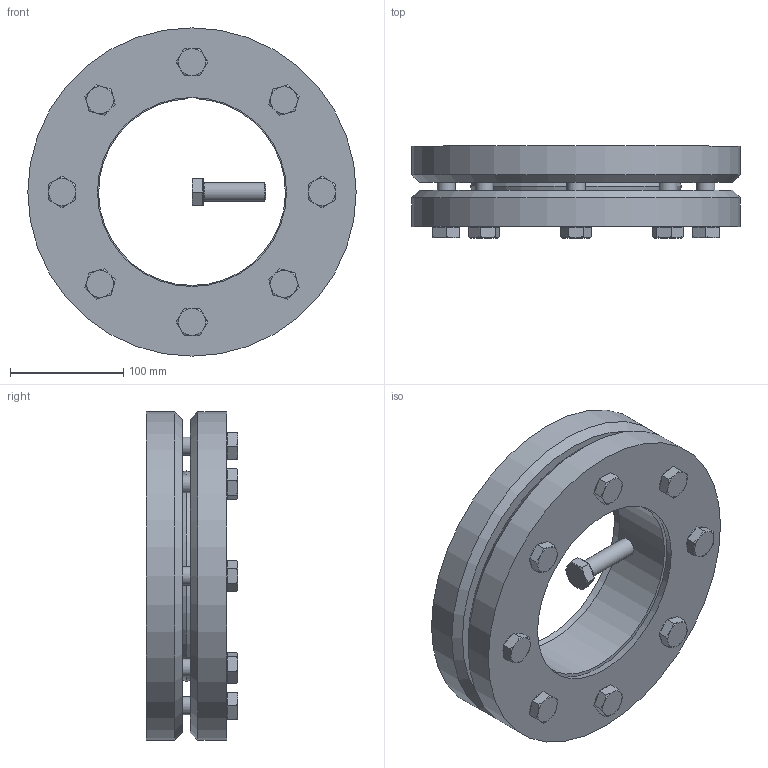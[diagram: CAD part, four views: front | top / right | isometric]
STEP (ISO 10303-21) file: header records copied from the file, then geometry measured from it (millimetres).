
FILE_DESCRIPTION( ( 'Unknown' ), '1' );
FILE_NAME( 'C:/Dokumente und Einstellungen/Sven/Desktop/homepage/cad - homepage/KBS19/KBS 19 - 165 x 290.stp', 'Unknown', ( 'Unknown' ), ( 'Unknown' ), 'XStep 1.0', 'Unknown', ' ' );
FILE_SCHEMA( ( 'automotive_design' ) );
Length unit declared in the file: millimetre
Products named in the file (3): Assem1; KBS 19 - 165 x 290; ISO 4017 - M16 x 55-N
Bounding box: 290 x 81 x 290 mm (x, y, z)
Volume: 5610148.7 mm3; surface area: 606305.9 mm2
Topology: 11 solids, 11 shells, 303 faces, 706 edges, 434 vertices
Faces by surface type: plane 163, cone 75, cylinder 56, torus 9
Full cylindrical faces by diameter (mm): 16 x41, 24 x9, 290 x4
Entity records: 2232 total; most frequent: CARTESIAN_POINT 365, DIRECTION 326, ORIENTED_EDGE 252, AXIS2_PLACEMENT_3D 142, EDGE_LOOP 127, EDGE_CURVE 126, VERTEX_POINT 93, FACE_OUTER_BOUND 85
